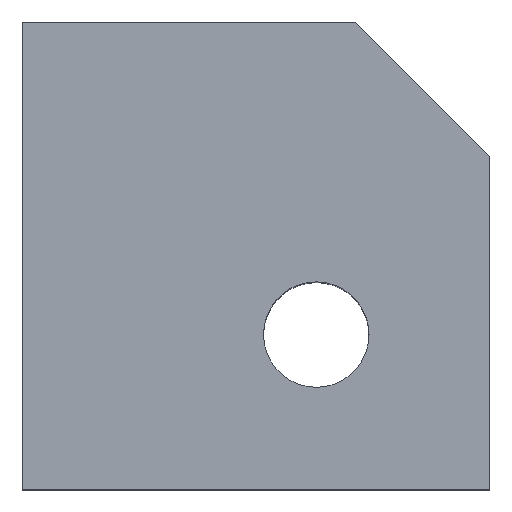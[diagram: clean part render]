
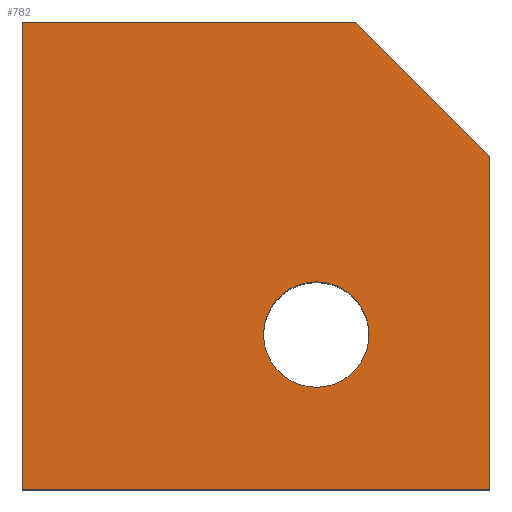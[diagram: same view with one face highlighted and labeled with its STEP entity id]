
A CAD part, top view. The second image highlights one B-rep face of the part: STEP entity #782.
In plain terms, the highlighted planar face has unit normal (0, 0, 1).
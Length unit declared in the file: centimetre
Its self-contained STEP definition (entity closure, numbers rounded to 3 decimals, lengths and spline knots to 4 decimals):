
#34 = LINE ( 'NONE', #47, #753 ) ;
#42 = VERTEX_POINT ( 'NONE', #525 ) ;
#47 = CARTESIAN_POINT ( 'NONE',  ( 0., 1000., 1000. ) ) ;
#51 = CARTESIAN_POINT ( 'NONE',  ( 516.1129, 331.7, 1000. ) ) ;
#54 = CARTESIAN_POINT ( 'NONE',  ( 0., 1000., 1000. ) ) ;
#78 = PLANE ( 'NONE',  #250 ) ;
#115 = ORIENTED_EDGE ( 'NONE', *, *, #197, .F. ) ;
#130 = LINE ( 'NONE', #54, #714 ) ;
#168 = ORIENTED_EDGE ( 'NONE', *, *, #172, .T. ) ;
#172 = EDGE_CURVE ( 'NONE', #231, #536, #34, .T. ) ;
#187 = EDGE_CURVE ( 'NONE', #42, #552, #810, .T. ) ;
#189 = CARTESIAN_POINT ( 'NONE',  ( 1000., 712.0599, 1000. ) ) ;
#197 = EDGE_CURVE ( 'NONE', #797, #419, #221, .T. ) ;
#210 = CARTESIAN_POINT ( 'NONE',  ( 0., 0., 1000. ) ) ;
#214 = ORIENTED_EDGE ( 'NONE', *, *, #457, .T. ) ;
#220 = CARTESIAN_POINT ( 'NONE',  ( 1000., 0., 1000. ) ) ;
#221 = CIRCLE ( 'NONE', #778, 112.7537 ) ;
#231 = VERTEX_POINT ( 'NONE', #242 ) ;
#242 = CARTESIAN_POINT ( 'NONE',  ( 712.0599, 1000., 1000. ) ) ;
#244 = ORIENTED_EDGE ( 'NONE', *, *, #398, .T. ) ;
#250 = AXIS2_PLACEMENT_3D ( 'NONE', #210, #393, #661 ) ;
#259 = DIRECTION ( 'NONE',  ( 1., 0., 0. ) ) ;
#263 = CARTESIAN_POINT ( 'NONE',  ( 741.6203, 331.7, 1000. ) ) ;
#274 = VECTOR ( 'NONE', #520, 100. ) ;
#288 = EDGE_CURVE ( 'NONE', #331, #231, #690, .T. ) ;
#293 = AXIS2_PLACEMENT_3D ( 'NONE', #529, #592, #259 ) ;
#310 = DIRECTION ( 'NONE',  ( -0.707, 0.707, 0. ) ) ;
#331 = VERTEX_POINT ( 'NONE', #189 ) ;
#345 = ORIENTED_EDGE ( 'NONE', *, *, #728, .F. ) ;
#364 = CARTESIAN_POINT ( 'NONE',  ( 628.8666, 331.7, 1000. ) ) ;
#369 = CARTESIAN_POINT ( 'NONE',  ( 856.03, 856.03, 1000. ) ) ;
#393 = DIRECTION ( 'NONE',  ( 0., 0., 1. ) ) ;
#396 = EDGE_LOOP ( 'NONE', ( #244, #581, #168, #214, #608 ) ) ;
#398 = EDGE_CURVE ( 'NONE', #552, #331, #448, .T. ) ;
#419 = VERTEX_POINT ( 'NONE', #51 ) ;
#422 = CARTESIAN_POINT ( 'NONE',  ( 0., 1000., 1000. ) ) ;
#448 = LINE ( 'NONE', #648, #274 ) ;
#457 = EDGE_CURVE ( 'NONE', #536, #42, #130, .T. ) ;
#501 = CIRCLE ( 'NONE', #293, 112.7537 ) ;
#509 = CARTESIAN_POINT ( 'NONE',  ( 0., 0., 1000. ) ) ;
#520 = DIRECTION ( 'NONE',  ( 0., 1., 0. ) ) ;
#525 = CARTESIAN_POINT ( 'NONE',  ( 0., 0., 1000. ) ) ;
#529 = CARTESIAN_POINT ( 'NONE',  ( 628.8666, 331.7, 1000. ) ) ;
#536 = VERTEX_POINT ( 'NONE', #422 ) ;
#552 = VERTEX_POINT ( 'NONE', #220 ) ;
#559 = DIRECTION ( 'NONE',  ( -1., 0., 0. ) ) ;
#581 = ORIENTED_EDGE ( 'NONE', *, *, #288, .T. ) ;
#592 = DIRECTION ( 'NONE',  ( 0., 0., 1. ) ) ;
#608 = ORIENTED_EDGE ( 'NONE', *, *, #187, .T. ) ;
#618 = DIRECTION ( 'NONE',  ( 1., 0., 0. ) ) ;
#648 = CARTESIAN_POINT ( 'NONE',  ( 1000., 1000., 1000. ) ) ;
#661 = DIRECTION ( 'NONE',  ( 1., 0., 0. ) ) ;
#670 = VECTOR ( 'NONE', #310, 100. ) ;
#690 = LINE ( 'NONE', #369, #670 ) ;
#701 = DIRECTION ( 'NONE',  ( 1., 0., 0. ) ) ;
#714 = VECTOR ( 'NONE', #834, 100. ) ;
#723 = FACE_BOUND ( 'NONE', #759, .T. ) ;
#728 = EDGE_CURVE ( 'NONE', #419, #797, #501, .T. ) ;
#753 = VECTOR ( 'NONE', #559, 100. ) ;
#759 = EDGE_LOOP ( 'NONE', ( #115, #345 ) ) ;
#760 = DIRECTION ( 'NONE',  ( 0., 0., 1. ) ) ;
#778 = AXIS2_PLACEMENT_3D ( 'NONE', #364, #760, #618 ) ;
#782 = ADVANCED_FACE ( 'NONE', ( #723, #790 ), #78, .T. ) ;
#790 = FACE_OUTER_BOUND ( 'NONE', #396, .T. ) ;
#792 = VECTOR ( 'NONE', #701, 100. ) ;
#797 = VERTEX_POINT ( 'NONE', #263 ) ;
#810 = LINE ( 'NONE', #509, #792 ) ;
#834 = DIRECTION ( 'NONE',  ( 0., -1., 0. ) ) ;
